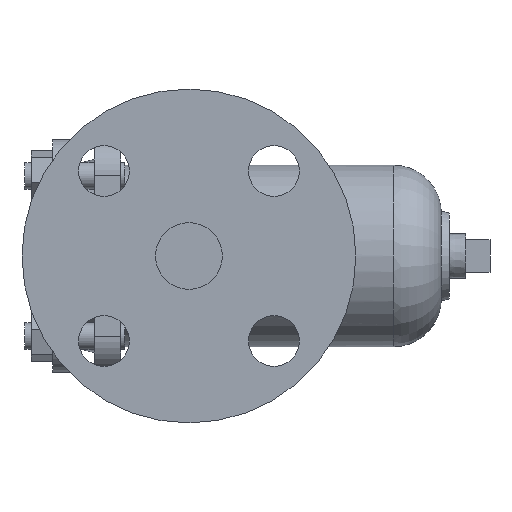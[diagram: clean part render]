
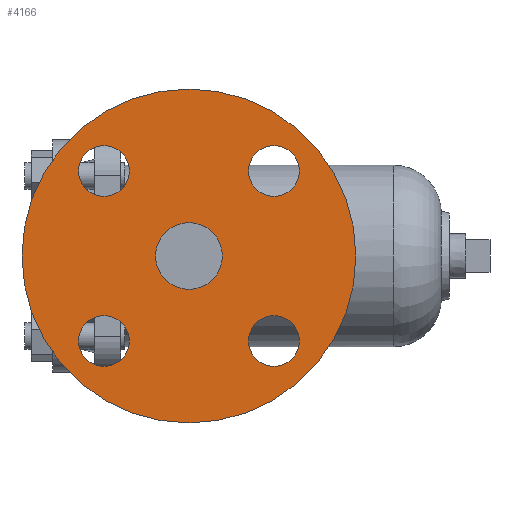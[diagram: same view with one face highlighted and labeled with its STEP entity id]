
A CAD part, left-side view. The second image highlights one B-rep face of the part: STEP entity #4166.
In plain terms, the highlighted planar face has unit normal (-1, 0, 0).
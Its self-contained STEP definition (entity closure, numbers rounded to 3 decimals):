
#9 = EDGE_CURVE ( 'NONE', #1269, #1439, #6431, .T. ) ;
#199 = DIRECTION ( 'NONE',  ( -1., 0., 0. ) ) ;
#259 = EDGE_LOOP ( 'NONE', ( #3329, #1888 ) ) ;
#270 = CARTESIAN_POINT ( 'NONE',  ( -83., -31.82, 31.82 ) ) ;
#311 = PLANE ( 'NONE',  #5685 ) ;
#368 = DIRECTION ( 'NONE',  ( 0., -1., 0. ) ) ;
#404 = DIRECTION ( 'NONE',  ( 0., 0., -1. ) ) ;
#484 = EDGE_CURVE ( 'NONE', #3787, #6415, #4788, .T. ) ;
#625 = CIRCLE ( 'NONE', #1289, 9.5 ) ;
#676 = VERTEX_POINT ( 'NONE', #4263 ) ;
#718 = ORIENTED_EDGE ( 'NONE', *, *, #5116, .T. ) ;
#731 = CIRCLE ( 'NONE', #5575, 9.5 ) ;
#880 = CARTESIAN_POINT ( 'NONE',  ( -83., 0., 0. ) ) ;
#885 = DIRECTION ( 'NONE',  ( -1., 0., 0. ) ) ;
#909 = DIRECTION ( 'NONE',  ( 0., 0., 1. ) ) ;
#991 = FACE_BOUND ( 'NONE', #2698, .T. ) ;
#1005 = DIRECTION ( 'NONE',  ( 0., 0., 1. ) ) ;
#1043 = AXIS2_PLACEMENT_3D ( 'NONE', #1242, #5414, #2804 ) ;
#1085 = CARTESIAN_POINT ( 'NONE',  ( -83., 31.82, -41.32 ) ) ;
#1135 = EDGE_CURVE ( 'NONE', #1257, #4369, #2710, .T. ) ;
#1147 = AXIS2_PLACEMENT_3D ( 'NONE', #4097, #2582, #404 ) ;
#1242 = CARTESIAN_POINT ( 'NONE',  ( -83., 0., 0. ) ) ;
#1257 = VERTEX_POINT ( 'NONE', #2319 ) ;
#1269 = VERTEX_POINT ( 'NONE', #5865 ) ;
#1289 = AXIS2_PLACEMENT_3D ( 'NONE', #1901, #4562, #6670 ) ;
#1377 = EDGE_CURVE ( 'NONE', #2228, #5684, #5006, .T. ) ;
#1439 = VERTEX_POINT ( 'NONE', #2389 ) ;
#1580 = ORIENTED_EDGE ( 'NONE', *, *, #2562, .T. ) ;
#1613 = VERTEX_POINT ( 'NONE', #3588 ) ;
#1739 = ORIENTED_EDGE ( 'NONE', *, *, #9, .F. ) ;
#1879 = DIRECTION ( 'NONE',  ( 0., 0., 1. ) ) ;
#1884 = FACE_BOUND ( 'NONE', #259, .T. ) ;
#1888 = ORIENTED_EDGE ( 'NONE', *, *, #2990, .F. ) ;
#1901 = CARTESIAN_POINT ( 'NONE',  ( -83., 31.82, 31.82 ) ) ;
#1946 = DIRECTION ( 'NONE',  ( -1., 0., 0. ) ) ;
#1957 = FACE_BOUND ( 'NONE', #5581, .T. ) ;
#1960 = EDGE_LOOP ( 'NONE', ( #718, #1580 ) ) ;
#2055 = ORIENTED_EDGE ( 'NONE', *, *, #1135, .F. ) ;
#2060 = CIRCLE ( 'NONE', #5586, 9.5 ) ;
#2178 = AXIS2_PLACEMENT_3D ( 'NONE', #880, #1946, #909 ) ;
#2195 = CARTESIAN_POINT ( 'NONE',  ( -83., 0., 62.5 ) ) ;
#2228 = VERTEX_POINT ( 'NONE', #5634 ) ;
#2275 = DIRECTION ( 'NONE',  ( -1., 0., 0. ) ) ;
#2290 = CIRCLE ( 'NONE', #2178, 62.5 ) ;
#2319 = CARTESIAN_POINT ( 'NONE',  ( -83., 31.82, -22.32 ) ) ;
#2376 = DIRECTION ( 'NONE',  ( 0., 0., -1. ) ) ;
#2389 = CARTESIAN_POINT ( 'NONE',  ( -83., 31.82, 22.32 ) ) ;
#2480 = FACE_BOUND ( 'NONE', #2800, .T. ) ;
#2533 = ORIENTED_EDGE ( 'NONE', *, *, #5773, .F. ) ;
#2550 = ORIENTED_EDGE ( 'NONE', *, *, #484, .F. ) ;
#2562 = EDGE_CURVE ( 'NONE', #676, #4267, #4258, .T. ) ;
#2582 = DIRECTION ( 'NONE',  ( -1., 0., 0. ) ) ;
#2607 = CARTESIAN_POINT ( 'NONE',  ( -83., -31.82, 22.32 ) ) ;
#2698 = EDGE_LOOP ( 'NONE', ( #2722, #4325 ) ) ;
#2710 = CIRCLE ( 'NONE', #4896, 9.5 ) ;
#2722 = ORIENTED_EDGE ( 'NONE', *, *, #1377, .F. ) ;
#2800 = EDGE_LOOP ( 'NONE', ( #2055, #2533 ) ) ;
#2804 = DIRECTION ( 'NONE',  ( 0., 0., 1. ) ) ;
#2990 = EDGE_CURVE ( 'NONE', #3130, #1613, #2060, .T. ) ;
#3130 = VERTEX_POINT ( 'NONE', #3547 ) ;
#3171 = AXIS2_PLACEMENT_3D ( 'NONE', #5881, #5777, #4818 ) ;
#3329 = ORIENTED_EDGE ( 'NONE', *, *, #4298, .F. ) ;
#3379 = AXIS2_PLACEMENT_3D ( 'NONE', #270, #5507, #2376 ) ;
#3461 = AXIS2_PLACEMENT_3D ( 'NONE', #6196, #885, #368 ) ;
#3543 = FACE_BOUND ( 'NONE', #5429, .T. ) ;
#3547 = CARTESIAN_POINT ( 'NONE',  ( -83., -31.82, -41.32 ) ) ;
#3582 = ORIENTED_EDGE ( 'NONE', *, *, #4791, .F. ) ;
#3588 = CARTESIAN_POINT ( 'NONE',  ( -83., -31.82, -22.32 ) ) ;
#3594 = DIRECTION ( 'NONE',  ( -1., 0., 0. ) ) ;
#3614 = FACE_OUTER_BOUND ( 'NONE', #1960, .T. ) ;
#3723 = CIRCLE ( 'NONE', #4056, 9.5 ) ;
#3746 = DIRECTION ( 'NONE',  ( -1., 0., 0. ) ) ;
#3787 = VERTEX_POINT ( 'NONE', #5624 ) ;
#3860 = DIRECTION ( 'NONE',  ( 0., 1., 0. ) ) ;
#4025 = EDGE_CURVE ( 'NONE', #6415, #3787, #5019, .T. ) ;
#4027 = DIRECTION ( 'NONE',  ( 0., 0., -1. ) ) ;
#4056 = AXIS2_PLACEMENT_3D ( 'NONE', #5535, #199, #1879 ) ;
#4097 = CARTESIAN_POINT ( 'NONE',  ( -83., -31.82, 31.82 ) ) ;
#4127 = DIRECTION ( 'NONE',  ( 1., 0., 0. ) ) ;
#4157 = CIRCLE ( 'NONE', #3171, 12.5 ) ;
#4166 = ADVANCED_FACE ( 'NONE', ( #1884, #3543, #1957, #2480, #991, #3614 ), #311, .F. ) ;
#4258 = CIRCLE ( 'NONE', #5464, 62.5 ) ;
#4263 = CARTESIAN_POINT ( 'NONE',  ( -83., 0., -62.5 ) ) ;
#4265 = DIRECTION ( 'NONE',  ( 0., 1., 0. ) ) ;
#4267 = VERTEX_POINT ( 'NONE', #2195 ) ;
#4298 = EDGE_CURVE ( 'NONE', #1613, #3130, #731, .T. ) ;
#4325 = ORIENTED_EDGE ( 'NONE', *, *, #5484, .F. ) ;
#4369 = VERTEX_POINT ( 'NONE', #1085 ) ;
#4562 = DIRECTION ( 'NONE',  ( -1., 0., 0. ) ) ;
#4788 = CIRCLE ( 'NONE', #1147, 9.5 ) ;
#4791 = EDGE_CURVE ( 'NONE', #1439, #1269, #625, .T. ) ;
#4818 = DIRECTION ( 'NONE',  ( 0., 0., 1. ) ) ;
#4896 = AXIS2_PLACEMENT_3D ( 'NONE', #5279, #3594, #1005 ) ;
#5006 = CIRCLE ( 'NONE', #1043, 12.5 ) ;
#5019 = CIRCLE ( 'NONE', #3379, 9.5 ) ;
#5039 = DIRECTION ( 'NONE',  ( 0., 0., 1. ) ) ;
#5059 = ORIENTED_EDGE ( 'NONE', *, *, #4025, .F. ) ;
#5116 = EDGE_CURVE ( 'NONE', #4267, #676, #2290, .T. ) ;
#5279 = CARTESIAN_POINT ( 'NONE',  ( -83., 31.82, -31.82 ) ) ;
#5339 = CARTESIAN_POINT ( 'NONE',  ( -83., -31.82, -31.82 ) ) ;
#5414 = DIRECTION ( 'NONE',  ( -1., 0., 0. ) ) ;
#5429 = EDGE_LOOP ( 'NONE', ( #2550, #5059 ) ) ;
#5464 = AXIS2_PLACEMENT_3D ( 'NONE', #6044, #6149, #5039 ) ;
#5484 = EDGE_CURVE ( 'NONE', #5684, #2228, #4157, .T. ) ;
#5507 = DIRECTION ( 'NONE',  ( -1., 0., 0. ) ) ;
#5535 = CARTESIAN_POINT ( 'NONE',  ( -83., 31.82, -31.82 ) ) ;
#5575 = AXIS2_PLACEMENT_3D ( 'NONE', #6829, #3746, #4265 ) ;
#5581 = EDGE_LOOP ( 'NONE', ( #1739, #3582 ) ) ;
#5586 = AXIS2_PLACEMENT_3D ( 'NONE', #5339, #2275, #3860 ) ;
#5624 = CARTESIAN_POINT ( 'NONE',  ( -83., -31.82, 41.32 ) ) ;
#5634 = CARTESIAN_POINT ( 'NONE',  ( -83., 0., 12.5 ) ) ;
#5684 = VERTEX_POINT ( 'NONE', #6581 ) ;
#5685 = AXIS2_PLACEMENT_3D ( 'NONE', #6170, #4127, #4027 ) ;
#5773 = EDGE_CURVE ( 'NONE', #4369, #1257, #3723, .T. ) ;
#5777 = DIRECTION ( 'NONE',  ( -1., 0., 0. ) ) ;
#5865 = CARTESIAN_POINT ( 'NONE',  ( -83., 31.82, 41.32 ) ) ;
#5881 = CARTESIAN_POINT ( 'NONE',  ( -83., 0., 0. ) ) ;
#6044 = CARTESIAN_POINT ( 'NONE',  ( -83., 0., 0. ) ) ;
#6149 = DIRECTION ( 'NONE',  ( -1., 0., 0. ) ) ;
#6170 = CARTESIAN_POINT ( 'NONE',  ( -83., 0., 0. ) ) ;
#6196 = CARTESIAN_POINT ( 'NONE',  ( -83., 31.82, 31.82 ) ) ;
#6415 = VERTEX_POINT ( 'NONE', #2607 ) ;
#6431 = CIRCLE ( 'NONE', #3461, 9.5 ) ;
#6581 = CARTESIAN_POINT ( 'NONE',  ( -83., 0., -12.5 ) ) ;
#6670 = DIRECTION ( 'NONE',  ( 0., -1., 0. ) ) ;
#6829 = CARTESIAN_POINT ( 'NONE',  ( -83., -31.82, -31.82 ) ) ;
